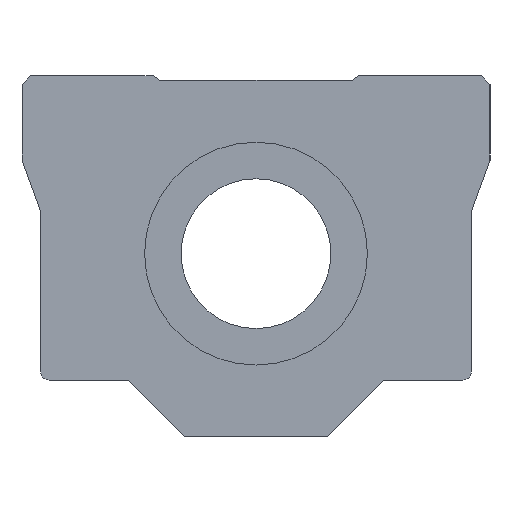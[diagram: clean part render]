
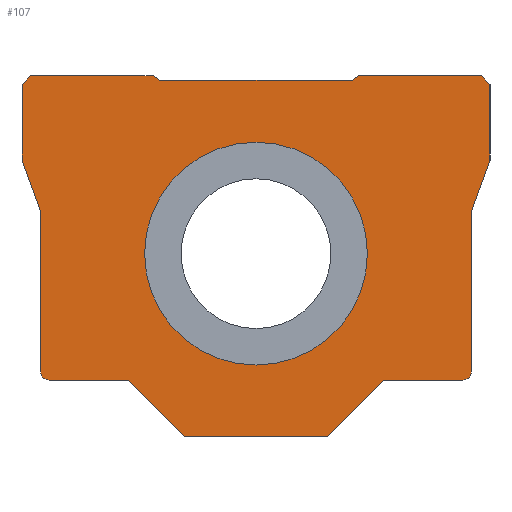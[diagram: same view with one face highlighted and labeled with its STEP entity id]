
A CAD part, left-side view. The second image highlights one B-rep face of the part: STEP entity #107.
In plain terms, the highlighted planar face has unit normal (-1, 0, 0).
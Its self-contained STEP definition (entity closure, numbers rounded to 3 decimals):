
#107 = ADVANCED_FACE( '', ( #237, #238 ), #239, .F. );
#237 = FACE_BOUND( '', #388, .T. );
#238 = FACE_OUTER_BOUND( '', #389, .T. );
#239 = PLANE( '', #390 );
#388 = EDGE_LOOP( '', ( #610 ) );
#389 = EDGE_LOOP( '', ( #611, #612, #613, #614, #615, #616, #617, #618, #619, #620, #621, #622, #623, #624, #625, #626, #627, #628, #629, #630 ) );
#390 = AXIS2_PLACEMENT_3D( '', #631, #632, #633 );
#610 = ORIENTED_EDGE( '', *, *, #846, .T. );
#611 = ORIENTED_EDGE( '', *, *, #826, .F. );
#612 = ORIENTED_EDGE( '', *, *, #838, .T. );
#613 = ORIENTED_EDGE( '', *, *, #852, .T. );
#614 = ORIENTED_EDGE( '', *, *, #853, .T. );
#615 = ORIENTED_EDGE( '', *, *, #854, .F. );
#616 = ORIENTED_EDGE( '', *, *, #855, .F. );
#617 = ORIENTED_EDGE( '', *, *, #803, .F. );
#618 = ORIENTED_EDGE( '', *, *, #836, .F. );
#619 = ORIENTED_EDGE( '', *, *, #814, .F. );
#620 = ORIENTED_EDGE( '', *, *, #850, .F. );
#621 = ORIENTED_EDGE( '', *, *, #856, .F. );
#622 = ORIENTED_EDGE( '', *, *, #779, .T. );
#623 = ORIENTED_EDGE( '', *, *, #810, .T. );
#624 = ORIENTED_EDGE( '', *, *, #857, .T. );
#625 = ORIENTED_EDGE( '', *, *, #858, .F. );
#626 = ORIENTED_EDGE( '', *, *, #859, .F. );
#627 = ORIENTED_EDGE( '', *, *, #832, .F. );
#628 = ORIENTED_EDGE( '', *, *, #819, .F. );
#629 = ORIENTED_EDGE( '', *, *, #860, .F. );
#630 = ORIENTED_EDGE( '', *, *, #798, .F. );
#631 = CARTESIAN_POINT( '', ( 0., 0., 0. ) );
#632 = DIRECTION( '', ( 1., 0., 0. ) );
#633 = DIRECTION( '', ( 0., 1., 0. ) );
#779 = EDGE_CURVE( '', #905, #903, #906, .T. );
#798 = EDGE_CURVE( '', #935, #937, #938, .T. );
#803 = EDGE_CURVE( '', #944, #946, #947, .T. );
#810 = EDGE_CURVE( '', #903, #955, #957, .T. );
#814 = EDGE_CURVE( '', #962, #964, #965, .T. );
#819 = EDGE_CURVE( '', #971, #973, #974, .T. );
#826 = EDGE_CURVE( '', #983, #935, #985, .T. );
#832 = EDGE_CURVE( '', #973, #994, #995, .T. );
#836 = EDGE_CURVE( '', #964, #944, #999, .T. );
#838 = EDGE_CURVE( '', #983, #1001, #1002, .T. );
#846 = EDGE_CURVE( '', #1013, #1013, #1014, .T. );
#850 = EDGE_CURVE( '', #1018, #962, #1020, .T. );
#852 = EDGE_CURVE( '', #1001, #1022, #1023, .T. );
#853 = EDGE_CURVE( '', #1022, #1024, #1025, .T. );
#854 = EDGE_CURVE( '', #1026, #1024, #1027, .T. );
#855 = EDGE_CURVE( '', #946, #1026, #1028, .T. );
#856 = EDGE_CURVE( '', #905, #1018, #1029, .T. );
#857 = EDGE_CURVE( '', #955, #1030, #1031, .T. );
#858 = EDGE_CURVE( '', #1032, #1030, #1033, .T. );
#859 = EDGE_CURVE( '', #994, #1032, #1034, .T. );
#860 = EDGE_CURVE( '', #937, #971, #1035, .T. );
#903 = VERTEX_POINT( '', #1087 );
#905 = VERTEX_POINT( '', #1090 );
#906 = LINE( '', #1091, #1092 );
#935 = VERTEX_POINT( '', #1122 );
#937 = VERTEX_POINT( '', #1125 );
#938 = CIRCLE( '', #1126, 0.9 );
#944 = VERTEX_POINT( '', #1134 );
#946 = VERTEX_POINT( '', #1137 );
#947 = LINE( '', #1138, #1139 );
#955 = VERTEX_POINT( '', #1149 );
#957 = LINE( '', #1152, #1153 );
#962 = VERTEX_POINT( '', #1159 );
#964 = VERTEX_POINT( '', #1162 );
#965 = LINE( '', #1163, #1164 );
#971 = VERTEX_POINT( '', #1172 );
#973 = VERTEX_POINT( '', #1175 );
#974 = LINE( '', #1176, #1177 );
#983 = VERTEX_POINT( '', #1188 );
#985 = LINE( '', #1191, #1192 );
#994 = VERTEX_POINT( '', #1202 );
#995 = LINE( '', #1203, #1204 );
#999 = LINE( '', #1210, #1211 );
#1001 = VERTEX_POINT( '', #1213 );
#1002 = LINE( '', #1214, #1215 );
#1013 = VERTEX_POINT( '', #1228 );
#1014 = CIRCLE( '', #1229, 11.9 );
#1018 = VERTEX_POINT( '', #1234 );
#1020 = LINE( '', #1237, #1238 );
#1022 = VERTEX_POINT( '', #1240 );
#1023 = LINE( '', #1241, #1242 );
#1024 = VERTEX_POINT( '', #1243 );
#1025 = LINE( '', #1244, #1245 );
#1026 = VERTEX_POINT( '', #1246 );
#1027 = LINE( '', #1247, #1248 );
#1028 = CIRCLE( '', #1249, 0.9 );
#1029 = LINE( '', #1250, #1251 );
#1030 = VERTEX_POINT( '', #1252 );
#1031 = LINE( '', #1253, #1254 );
#1032 = VERTEX_POINT( '', #1255 );
#1033 = LINE( '', #1256, #1257 );
#1034 = LINE( '', #1258, #1259 );
#1035 = LINE( '', #1260, #1261 );
#1087 = CARTESIAN_POINT( '', ( 0., -10.3, 18.55 ) );
#1090 = CARTESIAN_POINT( '', ( 0., -11., 19. ) );
#1091 = CARTESIAN_POINT( '', ( 0., -2.437, 13.495 ) );
#1092 = VECTOR( '', #1324, 1000. );
#1122 = CARTESIAN_POINT( '', ( 0., 22.1, -13.5 ) );
#1125 = CARTESIAN_POINT( '', ( 0., 23., -12.6 ) );
#1126 = AXIS2_PLACEMENT_3D( '', #1357, #1358, #1359 );
#1134 = CARTESIAN_POINT( '', ( 0., -23., 4.505 ) );
#1137 = CARTESIAN_POINT( '', ( 0., -23., -12.6 ) );
#1138 = CARTESIAN_POINT( '', ( 0., -23., 4.505 ) );
#1139 = VECTOR( '', #1363, 1000. );
#1149 = CARTESIAN_POINT( '', ( 0., 10.3, 18.55 ) );
#1152 = CARTESIAN_POINT( '', ( 0., 5.15, 18.55 ) );
#1153 = VECTOR( '', #1370, 1000. );
#1159 = CARTESIAN_POINT( '', ( 0., -25., 18.1 ) );
#1162 = CARTESIAN_POINT( '', ( 0., -25., 10. ) );
#1163 = CARTESIAN_POINT( '', ( 0., -25., 18.1 ) );
#1164 = VECTOR( '', #1373, 1000. );
#1172 = CARTESIAN_POINT( '', ( 0., 23., 4.505 ) );
#1175 = CARTESIAN_POINT( '', ( 0., 25., 10. ) );
#1176 = CARTESIAN_POINT( '', ( 0., 23., 4.505 ) );
#1177 = VECTOR( '', #1377, 1000. );
#1188 = CARTESIAN_POINT( '', ( 0., 13.647, -13.5 ) );
#1191 = CARTESIAN_POINT( '', ( 0., 11.147, -13.5 ) );
#1192 = VECTOR( '', #1387, 1000. );
#1202 = CARTESIAN_POINT( '', ( 0., 25., 18.1 ) );
#1203 = CARTESIAN_POINT( '', ( 0., 25., 10. ) );
#1204 = VECTOR( '', #1395, 1000. );
#1210 = CARTESIAN_POINT( '', ( 0., -25., 10. ) );
#1211 = VECTOR( '', #1398, 1000. );
#1213 = CARTESIAN_POINT( '', ( 0., 7.647, -19.5 ) );
#1214 = CARTESIAN_POINT( '', ( 0., 11.147, -16. ) );
#1215 = VECTOR( '', #1399, 1000. );
#1228 = CARTESIAN_POINT( '', ( 0., 11.9, 0. ) );
#1229 = AXIS2_PLACEMENT_3D( '', #1408, #1409, #1410 );
#1234 = CARTESIAN_POINT( '', ( 0., -24.1, 19. ) );
#1237 = CARTESIAN_POINT( '', ( 0., -24.1, 19. ) );
#1238 = VECTOR( '', #1413, 1000. );
#1240 = CARTESIAN_POINT( '', ( 0., -7.647, -19.5 ) );
#1241 = CARTESIAN_POINT( '', ( 0., 7.647, -19.5 ) );
#1242 = VECTOR( '', #1414, 1000. );
#1243 = CARTESIAN_POINT( '', ( 0., -13.647, -13.5 ) );
#1244 = CARTESIAN_POINT( '', ( 0., -7.647, -19.5 ) );
#1245 = VECTOR( '', #1415, 1000. );
#1246 = CARTESIAN_POINT( '', ( 0., -22.1, -13.5 ) );
#1247 = CARTESIAN_POINT( '', ( 0., -22.1, -13.5 ) );
#1248 = VECTOR( '', #1416, 1000. );
#1249 = AXIS2_PLACEMENT_3D( '', #1417, #1418, #1419 );
#1250 = CARTESIAN_POINT( '', ( 0., 24.1, 19. ) );
#1251 = VECTOR( '', #1420, 1000. );
#1252 = CARTESIAN_POINT( '', ( 0., 11., 19. ) );
#1253 = CARTESIAN_POINT( '', ( 0., 2.787, 13.72 ) );
#1254 = VECTOR( '', #1421, 1000. );
#1255 = CARTESIAN_POINT( '', ( 0., 24.1, 19. ) );
#1256 = CARTESIAN_POINT( '', ( 0., 24.1, 19. ) );
#1257 = VECTOR( '', #1422, 1000. );
#1258 = CARTESIAN_POINT( '', ( 0., 25., 18.1 ) );
#1259 = VECTOR( '', #1423, 1000. );
#1260 = CARTESIAN_POINT( '', ( 0., 23., -15.1 ) );
#1261 = VECTOR( '', #1424, 1000. );
#1324 = DIRECTION( '', ( 0., 0.841, -0.541 ) );
#1357 = CARTESIAN_POINT( '', ( 0., 22.1, -12.6 ) );
#1358 = DIRECTION( '', ( 1., 0., 0. ) );
#1359 = DIRECTION( '', ( 0., 0., -1. ) );
#1363 = DIRECTION( '', ( 0., 0., -1. ) );
#1370 = DIRECTION( '', ( 0., 1., 0. ) );
#1373 = DIRECTION( '', ( 0., 0., -1. ) );
#1377 = DIRECTION( '', ( 0., 0.342, 0.94 ) );
#1387 = DIRECTION( '', ( 0., 1., 0. ) );
#1395 = DIRECTION( '', ( 0., 0., 1. ) );
#1398 = DIRECTION( '', ( 0., 0.342, -0.94 ) );
#1399 = DIRECTION( '', ( 0., -0.707, -0.707 ) );
#1408 = CARTESIAN_POINT( '', ( 0., 0., 0. ) );
#1409 = DIRECTION( '', ( 1., 0., 0. ) );
#1410 = DIRECTION( '', ( 0., 1., 0. ) );
#1413 = DIRECTION( '', ( 0., -0.707, -0.707 ) );
#1414 = DIRECTION( '', ( 0., -1., 0. ) );
#1415 = DIRECTION( '', ( 0., -0.707, 0.707 ) );
#1416 = DIRECTION( '', ( 0., 1., 0. ) );
#1417 = CARTESIAN_POINT( '', ( 0., -22.1, -12.6 ) );
#1418 = DIRECTION( '', ( 1., 0., 0. ) );
#1419 = DIRECTION( '', ( 0., -1., 0. ) );
#1420 = DIRECTION( '', ( 0., -1., 0. ) );
#1421 = DIRECTION( '', ( 0., 0.841, 0.541 ) );
#1422 = DIRECTION( '', ( 0., -1., 0. ) );
#1423 = DIRECTION( '', ( 0., -0.707, 0.707 ) );
#1424 = DIRECTION( '', ( 0., 0., 1. ) );
